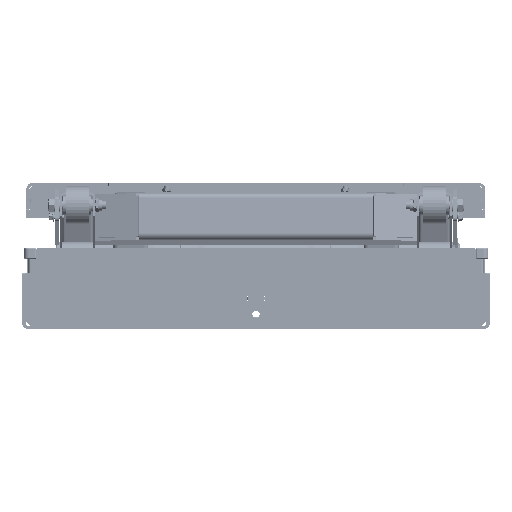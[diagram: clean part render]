
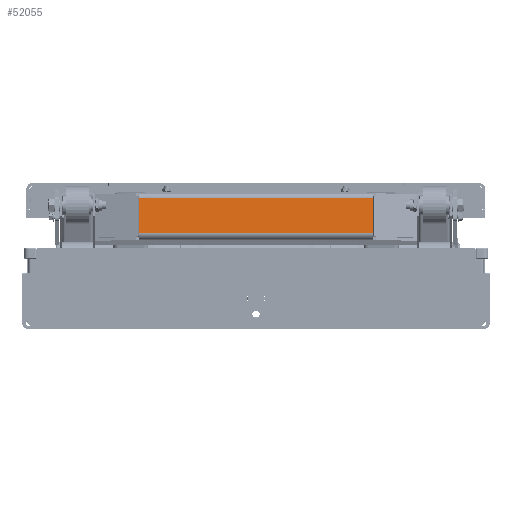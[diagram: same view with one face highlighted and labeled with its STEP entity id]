
A CAD part, left-side view. The second image highlights one B-rep face of the part: STEP entity #52055.
In plain terms, the highlighted planar face has unit normal (-0.996, 0, 0.087) as drawn and (0, 1, 0) by its records, which use the part's own axes.
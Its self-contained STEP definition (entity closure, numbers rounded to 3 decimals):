
#2786=PLANE('',#56136);
#5796=LINE('',#80754,#10363);
#5820=LINE('',#80809,#10387);
#5845=LINE('',#80870,#10412);
#5860=LINE('',#80904,#10427);
#10363=VECTOR('',#65107,60.);
#10387=VECTOR('',#65151,400.);
#10412=VECTOR('',#65202,60.);
#10427=VECTOR('',#65241,400.);
#15325=FACE_OUTER_BOUND('',#18556,.T.);
#18556=EDGE_LOOP('',(#41229,#41230,#41231,#41232));
#24916=VERTEX_POINT('',#80750);
#24918=VERTEX_POINT('',#80753);
#24939=VERTEX_POINT('',#80807);
#24962=VERTEX_POINT('',#80868);
#30806=EDGE_CURVE('',#24918,#24916,#5796,.T.);
#30834=EDGE_CURVE('',#24939,#24916,#5820,.T.);
#30865=EDGE_CURVE('',#24939,#24962,#5845,.T.);
#30883=EDGE_CURVE('',#24918,#24962,#5860,.T.);
#41229=ORIENTED_EDGE('',*,*,#30806,.T.);
#41230=ORIENTED_EDGE('',*,*,#30834,.F.);
#41231=ORIENTED_EDGE('',*,*,#30865,.T.);
#41232=ORIENTED_EDGE('',*,*,#30883,.F.);
#52055=ADVANCED_FACE('',(#15325),#2786,.T.);
#56136=AXIS2_PLACEMENT_3D('',#80903,#65239,#65240);
#65107=DIRECTION('',(1.,0.,0.));
#65151=DIRECTION('',(0.,0.,1.));
#65202=DIRECTION('',(-1.,0.,0.));
#65239=DIRECTION('center_axis',(0.,1.,0.));
#65240=DIRECTION('ref_axis',(0.,0.,1.));
#65241=DIRECTION('',(0.,0.,-1.));
#80750=CARTESIAN_POINT('',(30.,60.,475.));
#80753=CARTESIAN_POINT('',(-30.,60.,475.));
#80754=CARTESIAN_POINT('',(0.,60.,475.));
#80807=CARTESIAN_POINT('',(30.,60.,75.));
#80809=CARTESIAN_POINT('',(30.,60.,0.));
#80868=CARTESIAN_POINT('',(-30.,60.,75.));
#80870=CARTESIAN_POINT('',(0.,60.,75.));
#80903=CARTESIAN_POINT('Origin',(-40.,60.,0.));
#80904=CARTESIAN_POINT('',(-30.,60.,0.));
